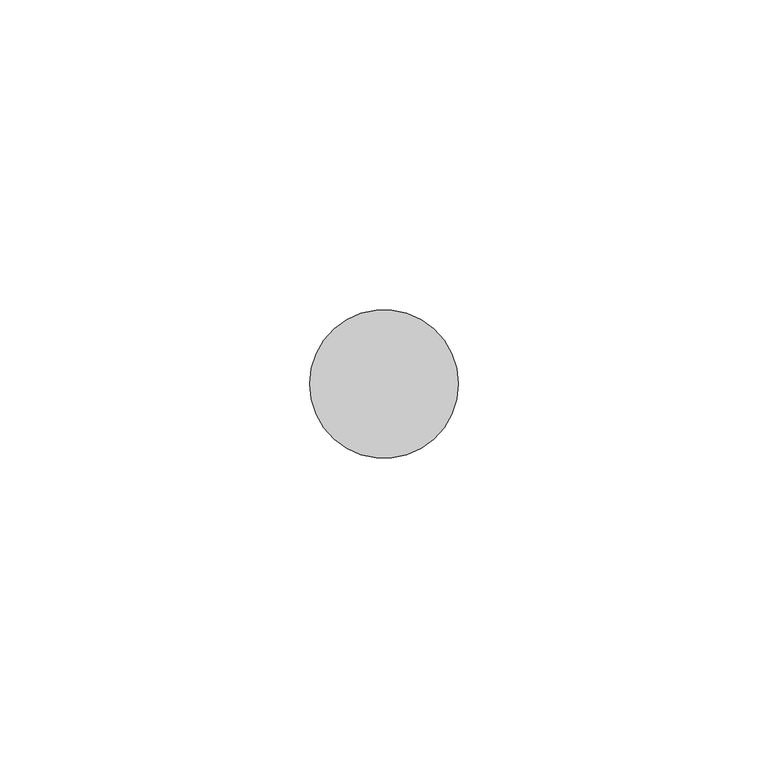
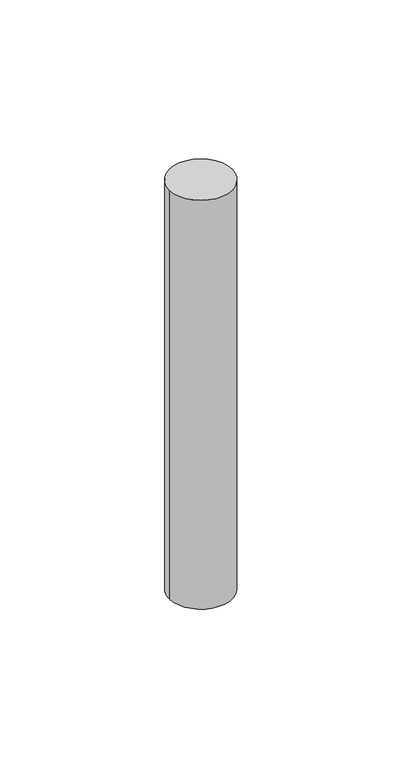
"""IFC4 building model written with IfcOpenShell, lengths in millimetres: fastener geometry, REC__VRM24165C88EQM : VRM24165C88EQM."""

from ifc_helpers import new_model, si_unit, point, origin, origin_with_axes, origin_2d, place, context, project, spatial, circle_curve, trimmed, segment, composite_curve, outline, extrude, source, transform, mapped, element, save


def fastener_020a80a8(model_context):
    return source(origin(), model_context, "Body", "SweptSolid", [
        extrude(outline(composite_curve([segment(trimmed(circle_curve(origin_2d(), 12.0), [point((-12.0, 0.0))], [point((12.0, 0.0))], False, "CARTESIAN"), True, "CONTINUOUS"), segment(trimmed(circle_curve(origin_2d(), 12.0), [point((12.0, 0.0))], [point((-12.0, 0.0))], False, "CARTESIAN"), True, "CONTINUOUS")], self_intersect=False)), origin_with_axes(), (0.0, 0.0, 1.0), 165.0),
    ])


if __name__ == "__main__":
    model = new_model("IFC4")
    model_context = context("Model", 3, world=origin())
    ifc_project = project(units=[si_unit("LENGTHUNIT", "METRE", prefix="MILLI")], contexts=[model_context])
    site = spatial("IfcSite", under=ifc_project)
    building = spatial("IfcBuilding", under=site)
    placement = place(None, origin())
    fastener_shape = fastener_020a80a8(model_context)
    element("IfcFastener", 1, ObjectType="REC__VRM24165C88EQM : VRM24165C88EQM", at=placement, inside=building, context=model_context, shape_type="MappedRepresentation", body=[
        mapped(fastener_shape, transform((0.0, 0.0, 0.0), x_axis=(1.0, 0.0, 0.0), y_axis=(0.0, 1.0, 0.0), z_axis=(0.0, 0.0, 1.0))),
    ])
    save(model, "model.ifc")
